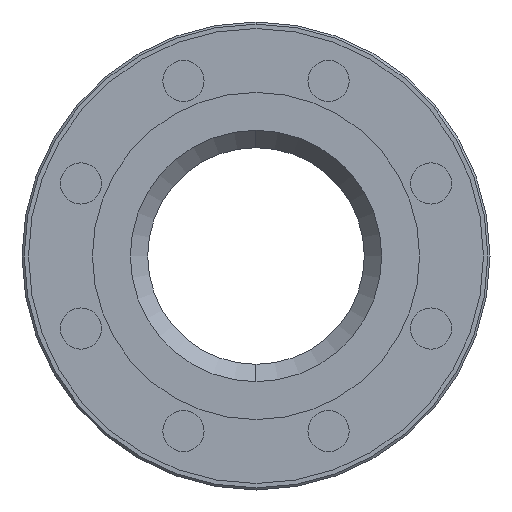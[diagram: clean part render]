
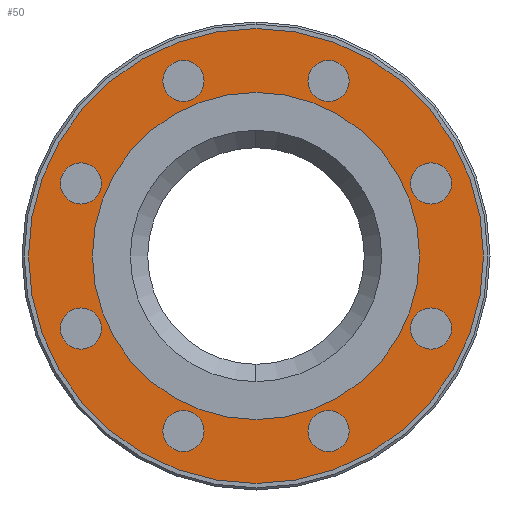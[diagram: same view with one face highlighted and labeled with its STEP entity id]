
A CAD part, left-side view. The second image highlights one B-rep face of the part: STEP entity #50.
In plain terms, the highlighted planar face has unit normal (-1, 0, 0).
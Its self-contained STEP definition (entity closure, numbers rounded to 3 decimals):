
#50=ADVANCED_FACE('',(#275,#276,#277,#278,#279,#280,#281,#282,#283,#284),#274,.T.);
#274=PLANE('',#1464);
#275=FACE_OUTER_BOUND('',#1465,.T.);
#276=FACE_BOUND('',#1466,.T.);
#277=FACE_BOUND('',#1467,.T.);
#278=FACE_BOUND('',#1468,.T.);
#279=FACE_BOUND('',#1469,.T.);
#280=FACE_BOUND('',#1470,.T.);
#281=FACE_BOUND('',#1471,.T.);
#282=FACE_BOUND('',#1472,.T.);
#283=FACE_BOUND('',#1473,.T.);
#284=FACE_BOUND('',#1474,.T.);
#1461=CARTESIAN_POINT('',(2.,-191.865,-220.));
#1462=DIRECTION('',(-1.,0.,0.));
#1463=DIRECTION('',(0.,0.,1.));
#1464=AXIS2_PLACEMENT_3D('',#1461,#1462,#1463);
#1465=EDGE_LOOP('',(#2466,#2467));
#1466=EDGE_LOOP('',(#2468,#2469));
#1467=EDGE_LOOP('',(#2470,#2471));
#1468=EDGE_LOOP('',(#2472,#2473));
#1469=EDGE_LOOP('',(#2474,#2475));
#1470=EDGE_LOOP('',(#2476,#2477));
#1471=EDGE_LOOP('',(#2478,#2479));
#1472=EDGE_LOOP('',(#2480,#2481));
#1473=EDGE_LOOP('',(#2482,#2483));
#1474=EDGE_LOOP('',(#2484,#2485));
#2466=ORIENTED_EDGE('',*,*,#3032,.T.);
#2467=ORIENTED_EDGE('',*,*,#3033,.T.);
#2468=ORIENTED_EDGE('',*,*,#3034,.F.);
#2469=ORIENTED_EDGE('',*,*,#3035,.F.);
#2470=ORIENTED_EDGE('',*,*,#3036,.F.);
#2471=ORIENTED_EDGE('',*,*,#3037,.F.);
#2472=ORIENTED_EDGE('',*,*,#3038,.F.);
#2473=ORIENTED_EDGE('',*,*,#3039,.F.);
#2474=ORIENTED_EDGE('',*,*,#3040,.F.);
#2475=ORIENTED_EDGE('',*,*,#3041,.F.);
#2476=ORIENTED_EDGE('',*,*,#3042,.F.);
#2477=ORIENTED_EDGE('',*,*,#3043,.F.);
#2478=ORIENTED_EDGE('',*,*,#3044,.F.);
#2479=ORIENTED_EDGE('',*,*,#3045,.F.);
#2480=ORIENTED_EDGE('',*,*,#3046,.F.);
#2481=ORIENTED_EDGE('',*,*,#3047,.F.);
#2482=ORIENTED_EDGE('',*,*,#3048,.F.);
#2483=ORIENTED_EDGE('',*,*,#3049,.F.);
#2484=ORIENTED_EDGE('',*,*,#3050,.F.);
#2485=ORIENTED_EDGE('',*,*,#3051,.F.);
#3032=EDGE_CURVE('',#3638,#3639,#3640,.T.);
#3033=EDGE_CURVE('',#3639,#3638,#3646,.T.);
#3034=EDGE_CURVE('',#3652,#3653,#3654,.T.);
#3035=EDGE_CURVE('',#3653,#3652,#3660,.T.);
#3036=EDGE_CURVE('',#3666,#3667,#3668,.T.);
#3037=EDGE_CURVE('',#3667,#3666,#3674,.T.);
#3038=EDGE_CURVE('',#3680,#3681,#3682,.T.);
#3039=EDGE_CURVE('',#3681,#3680,#3688,.T.);
#3040=EDGE_CURVE('',#3694,#3695,#3696,.T.);
#3041=EDGE_CURVE('',#3695,#3694,#3702,.T.);
#3042=EDGE_CURVE('',#3708,#3709,#3710,.T.);
#3043=EDGE_CURVE('',#3709,#3708,#3716,.T.);
#3044=EDGE_CURVE('',#3722,#3723,#3724,.T.);
#3045=EDGE_CURVE('',#3723,#3722,#3730,.T.);
#3046=EDGE_CURVE('',#3736,#3737,#3738,.T.);
#3047=EDGE_CURVE('',#3737,#3736,#3744,.T.);
#3048=EDGE_CURVE('',#3750,#3751,#3752,.T.);
#3049=EDGE_CURVE('',#3751,#3750,#3758,.T.);
#3050=EDGE_CURVE('',#3764,#3765,#3766,.T.);
#3051=EDGE_CURVE('',#3765,#3764,#3772,.T.);
#3638=VERTEX_POINT('',#5406);
#3639=VERTEX_POINT('',#5407);
#3640=CIRCLE('',#5411,105.);
#3646=CIRCLE('',#5415,105.);
#3652=VERTEX_POINT('',#5416);
#3653=VERTEX_POINT('',#5417);
#3654=CIRCLE('',#5421,9.5);
#3660=CIRCLE('',#5425,9.5);
#3666=VERTEX_POINT('',#5426);
#3667=VERTEX_POINT('',#5427);
#3668=CIRCLE('',#5431,9.5);
#3674=CIRCLE('',#5435,9.5);
#3680=VERTEX_POINT('',#5436);
#3681=VERTEX_POINT('',#5437);
#3682=CIRCLE('',#5441,9.5);
#3688=CIRCLE('',#5445,9.5);
#3694=VERTEX_POINT('',#5446);
#3695=VERTEX_POINT('',#5447);
#3696=CIRCLE('',#5451,9.5);
#3702=CIRCLE('',#5455,9.5);
#3708=VERTEX_POINT('',#5456);
#3709=VERTEX_POINT('',#5457);
#3710=CIRCLE('',#5461,9.5);
#3716=CIRCLE('',#5465,9.5);
#3722=VERTEX_POINT('',#5466);
#3723=VERTEX_POINT('',#5467);
#3724=CIRCLE('',#5471,9.5);
#3730=CIRCLE('',#5475,9.5);
#3736=VERTEX_POINT('',#5476);
#3737=VERTEX_POINT('',#5477);
#3738=CIRCLE('',#5481,9.5);
#3744=CIRCLE('',#5485,9.5);
#3750=VERTEX_POINT('',#5486);
#3751=VERTEX_POINT('',#5487);
#3752=CIRCLE('',#5491,9.5);
#3758=CIRCLE('',#5495,9.5);
#3764=VERTEX_POINT('',#5496);
#3765=VERTEX_POINT('',#5497);
#3766=CIRCLE('',#5501,75.5);
#3772=CIRCLE('',#5505,75.5);
#5406=CARTESIAN_POINT('',(2.,0.,105.));
#5407=CARTESIAN_POINT('',(2.,0.,-105.));
#5408=CARTESIAN_POINT('',(2.,0.,0.));
#5409=DIRECTION('',(-1.,0.,0.));
#5410=DIRECTION('',(0.,0.,1.));
#5411=AXIS2_PLACEMENT_3D('',#5408,#5409,#5410);
#5412=CARTESIAN_POINT('',(2.,0.,0.));
#5413=DIRECTION('',(-1.,0.,0.));
#5414=DIRECTION('',(0.,0.,1.));
#5415=AXIS2_PLACEMENT_3D('',#5412,#5413,#5414);
#5416=CARTESIAN_POINT('',(2.,-80.839,42.985));
#5417=CARTESIAN_POINT('',(2.,-80.839,23.985));
#5418=CARTESIAN_POINT('',(2.,-80.839,33.485));
#5419=DIRECTION('',(-1.,0.,0.));
#5420=DIRECTION('',(0.,0.,-1.));
#5421=AXIS2_PLACEMENT_3D('',#5418,#5419,#5420);
#5422=CARTESIAN_POINT('',(2.,-80.839,33.485));
#5423=DIRECTION('',(-1.,0.,0.));
#5424=DIRECTION('',(0.,0.,-1.));
#5425=AXIS2_PLACEMENT_3D('',#5422,#5423,#5424);
#5426=CARTESIAN_POINT('',(2.,-80.839,-23.985));
#5427=CARTESIAN_POINT('',(2.,-80.839,-42.985));
#5428=CARTESIAN_POINT('',(2.,-80.839,-33.485));
#5429=DIRECTION('',(-1.,0.,0.));
#5430=DIRECTION('',(0.,0.,-1.));
#5431=AXIS2_PLACEMENT_3D('',#5428,#5429,#5430);
#5432=CARTESIAN_POINT('',(2.,-80.839,-33.485));
#5433=DIRECTION('',(-1.,0.,0.));
#5434=DIRECTION('',(0.,0.,-1.));
#5435=AXIS2_PLACEMENT_3D('',#5432,#5433,#5434);
#5436=CARTESIAN_POINT('',(2.,-33.485,-71.339));
#5437=CARTESIAN_POINT('',(2.,-33.485,-90.339));
#5438=CARTESIAN_POINT('',(2.,-33.485,-80.839));
#5439=DIRECTION('',(-1.,0.,0.));
#5440=DIRECTION('',(0.,0.,-1.));
#5441=AXIS2_PLACEMENT_3D('',#5438,#5439,#5440);
#5442=CARTESIAN_POINT('',(2.,-33.485,-80.839));
#5443=DIRECTION('',(-1.,0.,0.));
#5444=DIRECTION('',(0.,0.,-1.));
#5445=AXIS2_PLACEMENT_3D('',#5442,#5443,#5444);
#5446=CARTESIAN_POINT('',(2.,33.485,-71.339));
#5447=CARTESIAN_POINT('',(2.,33.485,-90.339));
#5448=CARTESIAN_POINT('',(2.,33.485,-80.839));
#5449=DIRECTION('',(-1.,0.,0.));
#5450=DIRECTION('',(0.,0.,-1.));
#5451=AXIS2_PLACEMENT_3D('',#5448,#5449,#5450);
#5452=CARTESIAN_POINT('',(2.,33.485,-80.839));
#5453=DIRECTION('',(-1.,0.,0.));
#5454=DIRECTION('',(0.,0.,-1.));
#5455=AXIS2_PLACEMENT_3D('',#5452,#5453,#5454);
#5456=CARTESIAN_POINT('',(2.,80.839,-23.985));
#5457=CARTESIAN_POINT('',(2.,80.839,-42.985));
#5458=CARTESIAN_POINT('',(2.,80.839,-33.485));
#5459=DIRECTION('',(-1.,0.,0.));
#5460=DIRECTION('',(0.,0.,-1.));
#5461=AXIS2_PLACEMENT_3D('',#5458,#5459,#5460);
#5462=CARTESIAN_POINT('',(2.,80.839,-33.485));
#5463=DIRECTION('',(-1.,0.,0.));
#5464=DIRECTION('',(0.,0.,-1.));
#5465=AXIS2_PLACEMENT_3D('',#5462,#5463,#5464);
#5466=CARTESIAN_POINT('',(2.,80.839,42.985));
#5467=CARTESIAN_POINT('',(2.,80.839,23.985));
#5468=CARTESIAN_POINT('',(2.,80.839,33.485));
#5469=DIRECTION('',(-1.,0.,0.));
#5470=DIRECTION('',(0.,0.,-1.));
#5471=AXIS2_PLACEMENT_3D('',#5468,#5469,#5470);
#5472=CARTESIAN_POINT('',(2.,80.839,33.485));
#5473=DIRECTION('',(-1.,0.,0.));
#5474=DIRECTION('',(0.,0.,-1.));
#5475=AXIS2_PLACEMENT_3D('',#5472,#5473,#5474);
#5476=CARTESIAN_POINT('',(2.,33.485,90.339));
#5477=CARTESIAN_POINT('',(2.,33.485,71.339));
#5478=CARTESIAN_POINT('',(2.,33.485,80.839));
#5479=DIRECTION('',(-1.,0.,0.));
#5480=DIRECTION('',(0.,0.,-1.));
#5481=AXIS2_PLACEMENT_3D('',#5478,#5479,#5480);
#5482=CARTESIAN_POINT('',(2.,33.485,80.839));
#5483=DIRECTION('',(-1.,0.,0.));
#5484=DIRECTION('',(0.,0.,-1.));
#5485=AXIS2_PLACEMENT_3D('',#5482,#5483,#5484);
#5486=CARTESIAN_POINT('',(2.,-33.485,90.339));
#5487=CARTESIAN_POINT('',(2.,-33.485,71.339));
#5488=CARTESIAN_POINT('',(2.,-33.485,80.839));
#5489=DIRECTION('',(-1.,0.,0.));
#5490=DIRECTION('',(0.,0.,-1.));
#5491=AXIS2_PLACEMENT_3D('',#5488,#5489,#5490);
#5492=CARTESIAN_POINT('',(2.,-33.485,80.839));
#5493=DIRECTION('',(-1.,0.,0.));
#5494=DIRECTION('',(0.,0.,-1.));
#5495=AXIS2_PLACEMENT_3D('',#5492,#5493,#5494);
#5496=CARTESIAN_POINT('',(2.,0.,-75.5));
#5497=CARTESIAN_POINT('',(2.,0.,75.5));
#5498=CARTESIAN_POINT('',(2.,0.,0.));
#5499=DIRECTION('',(-1.,0.,0.));
#5500=DIRECTION('',(0.,0.,1.));
#5501=AXIS2_PLACEMENT_3D('',#5498,#5499,#5500);
#5502=CARTESIAN_POINT('',(2.,0.,0.));
#5503=DIRECTION('',(-1.,0.,0.));
#5504=DIRECTION('',(0.,0.,1.));
#5505=AXIS2_PLACEMENT_3D('',#5502,#5503,#5504);
